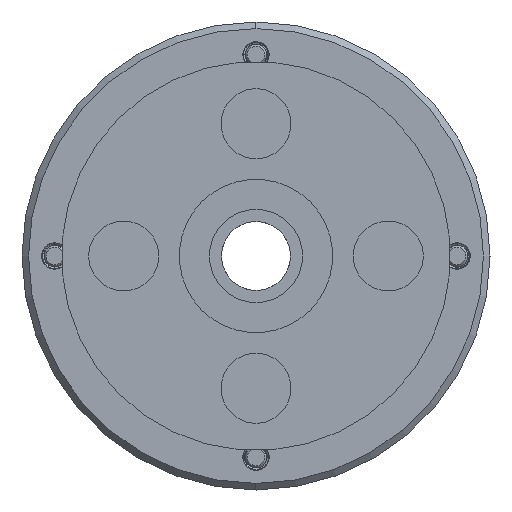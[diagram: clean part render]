
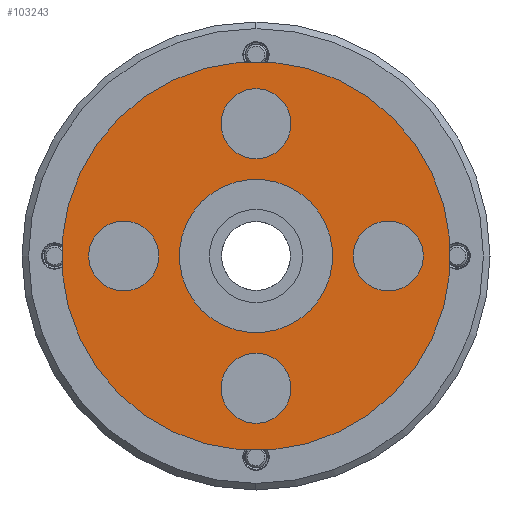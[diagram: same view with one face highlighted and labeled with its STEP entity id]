
A CAD part, front view. The second image highlights one B-rep face of the part: STEP entity #103243.
In plain terms, the highlighted planar face has unit normal (0, -1, 0).
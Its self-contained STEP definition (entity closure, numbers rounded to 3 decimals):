
#1162 = EDGE_CURVE ( 'NONE', #57829, #64272, #52770, .T. ) ;
#1677 = VERTEX_POINT ( 'NONE', #91084 ) ;
#2292 = VERTEX_POINT ( 'NONE', #72057 ) ;
#2475 = DIRECTION ( 'NONE',  ( 0., -1., 0. ) ) ;
#2848 = CIRCLE ( 'NONE', #99562, 17.526 ) ;
#3690 = FACE_BOUND ( 'NONE', #38725, .T. ) ;
#3833 = DIRECTION ( 'NONE',  ( 0., -1., 0. ) ) ;
#4563 = CARTESIAN_POINT ( 'NONE',  ( 25.222, -270.6, 73.841 ) ) ;
#6113 = DIRECTION ( 'NONE',  ( 0.707, 0., -0.707 ) ) ;
#7865 = CIRCLE ( 'NONE', #80913, 8.001 ) ;
#9771 = EDGE_CURVE ( 'NONE', #93512, #59195, #13203, .T. ) ;
#12374 = CARTESIAN_POINT ( 'NONE',  ( 25.222, -270.6, 104.067 ) ) ;
#12592 = CARTESIAN_POINT ( 'NONE',  ( 49.79, -270.6, 79.499 ) ) ;
#12610 = VERTEX_POINT ( 'NONE', #12592 ) ;
#13100 = EDGE_LOOP ( 'NONE', ( #38926, #27271 ) ) ;
#13203 = CIRCLE ( 'NONE', #44356, 8.001 ) ;
#13887 = EDGE_LOOP ( 'NONE', ( #57359, #43986 ) ) ;
#15195 = ORIENTED_EDGE ( 'NONE', *, *, #38668, .F. ) ;
#15482 = DIRECTION ( 'NONE',  ( 0., -1., 0. ) ) ;
#15580 = ORIENTED_EDGE ( 'NONE', *, *, #9771, .F. ) ;
#15630 = DIRECTION ( 'NONE',  ( 0., -1., 0. ) ) ;
#16060 = CARTESIAN_POINT ( 'NONE',  ( 25.222, -270.6, 104.067 ) ) ;
#16500 = AXIS2_PLACEMENT_3D ( 'NONE', #76999, #43321, #26668 ) ;
#17140 = ORIENTED_EDGE ( 'NONE', *, *, #24731, .F. ) ;
#17389 = CARTESIAN_POINT ( 'NONE',  ( -5.004, -270.6, 73.841 ) ) ;
#21909 = VERTEX_POINT ( 'NONE', #24761 ) ;
#23789 = DIRECTION ( 'NONE',  ( 0.707, 0., -0.707 ) ) ;
#24731 = EDGE_CURVE ( 'NONE', #2292, #21909, #54283, .T. ) ;
#24761 = CARTESIAN_POINT ( 'NONE',  ( 12.829, -270.6, 86.234 ) ) ;
#26668 = DIRECTION ( 'NONE',  ( 0.707, 0., -0.707 ) ) ;
#27271 = ORIENTED_EDGE ( 'NONE', *, *, #91590, .T. ) ;
#28256 = CARTESIAN_POINT ( 'NONE',  ( -6.209, -270.6, 105.272 ) ) ;
#29985 = CARTESIAN_POINT ( 'NONE',  ( 30.88, -270.6, 37.958 ) ) ;
#30122 = ORIENTED_EDGE ( 'NONE', *, *, #97494, .F. ) ;
#30275 = DIRECTION ( 'NONE',  ( 0., -1., 0. ) ) ;
#32118 = AXIS2_PLACEMENT_3D ( 'NONE', #4563, #30275, #55474 ) ;
#32899 = DIRECTION ( 'NONE',  ( 0.707, 0., -0.707 ) ) ;
#34058 = CIRCLE ( 'NONE', #77807, 8.001 ) ;
#34332 = EDGE_CURVE ( 'NONE', #1677, #80880, #79644, .T. ) ;
#34604 = EDGE_LOOP ( 'NONE', ( #30122, #61757 ) ) ;
#35494 = CARTESIAN_POINT ( 'NONE',  ( 25.222, -270.6, 73.841 ) ) ;
#36632 = CIRCLE ( 'NONE', #16500, 8.001 ) ;
#37064 = CARTESIAN_POINT ( 'NONE',  ( -5.004, -270.6, 73.841 ) ) ;
#38668 = EDGE_CURVE ( 'NONE', #12610, #58379, #63774, .T. ) ;
#38725 = EDGE_LOOP ( 'NONE', ( #101909, #15195 ) ) ;
#38926 = ORIENTED_EDGE ( 'NONE', *, *, #109003, .T. ) ;
#41443 = DIRECTION ( 'NONE',  ( 0.707, 0., -0.707 ) ) ;
#42118 = AXIS2_PLACEMENT_3D ( 'NONE', #105950, #91074, #64303 ) ;
#42566 = EDGE_CURVE ( 'NONE', #59195, #93512, #7865, .T. ) ;
#43321 = DIRECTION ( 'NONE',  ( 0., -1., 0. ) ) ;
#43986 = ORIENTED_EDGE ( 'NONE', *, *, #34332, .F. ) ;
#44356 = AXIS2_PLACEMENT_3D ( 'NONE', #63673, #2475, #107559 ) ;
#44499 = DIRECTION ( 'NONE',  ( 0.707, 0., -0.707 ) ) ;
#47351 = AXIS2_PLACEMENT_3D ( 'NONE', #37064, #97544, #44499 ) ;
#52770 = CIRCLE ( 'NONE', #47351, 8.001 ) ;
#54283 = CIRCLE ( 'NONE', #105354, 17.526 ) ;
#55474 = DIRECTION ( 'NONE',  ( 0.707, 0., -0.707 ) ) ;
#55764 = EDGE_LOOP ( 'NONE', ( #97056, #15580 ) ) ;
#56555 = CARTESIAN_POINT ( 'NONE',  ( 30.88, -270.6, 98.41 ) ) ;
#57359 = ORIENTED_EDGE ( 'NONE', *, *, #90455, .F. ) ;
#57829 = VERTEX_POINT ( 'NONE', #107911 ) ;
#58379 = VERTEX_POINT ( 'NONE', #82112 ) ;
#58449 = VERTEX_POINT ( 'NONE', #28256 ) ;
#59195 = VERTEX_POINT ( 'NONE', #29985 ) ;
#61757 = ORIENTED_EDGE ( 'NONE', *, *, #1162, .F. ) ;
#62908 = AXIS2_PLACEMENT_3D ( 'NONE', #16060, #15482, #67538 ) ;
#63673 = CARTESIAN_POINT ( 'NONE',  ( 25.222, -270.6, 43.615 ) ) ;
#63774 = CIRCLE ( 'NONE', #111166, 8.001 ) ;
#64272 = VERTEX_POINT ( 'NONE', #99787 ) ;
#64303 = DIRECTION ( 'NONE',  ( 0.707, 0., -0.707 ) ) ;
#67538 = DIRECTION ( 'NONE',  ( 0.707, 0., -0.707 ) ) ;
#68286 = CARTESIAN_POINT ( 'NONE',  ( 25.222, -270.6, 43.615 ) ) ;
#68757 = CIRCLE ( 'NONE', #69010, 44.45 ) ;
#69010 = AXIS2_PLACEMENT_3D ( 'NONE', #111218, #102096, #6113 ) ;
#71418 = EDGE_LOOP ( 'NONE', ( #82265, #17140 ) ) ;
#72057 = CARTESIAN_POINT ( 'NONE',  ( 37.615, -270.6, 61.449 ) ) ;
#72867 = FACE_BOUND ( 'NONE', #55764, .T. ) ;
#76999 = CARTESIAN_POINT ( 'NONE',  ( 55.448, -270.6, 73.841 ) ) ;
#77807 = AXIS2_PLACEMENT_3D ( 'NONE', #17389, #95671, #32899 ) ;
#79454 = EDGE_CURVE ( 'NONE', #21909, #2292, #2848, .T. ) ;
#79644 = CIRCLE ( 'NONE', #96101, 8.001 ) ;
#79981 = CARTESIAN_POINT ( 'NONE',  ( 19.564, -270.6, 49.273 ) ) ;
#80880 = VERTEX_POINT ( 'NONE', #56555 ) ;
#80913 = AXIS2_PLACEMENT_3D ( 'NONE', #68286, #111116, #93934 ) ;
#81393 = PLANE ( 'NONE',  #42118 ) ;
#82112 = CARTESIAN_POINT ( 'NONE',  ( 61.106, -270.6, 68.184 ) ) ;
#82265 = ORIENTED_EDGE ( 'NONE', *, *, #79454, .F. ) ;
#82901 = CIRCLE ( 'NONE', #62908, 8.001 ) ;
#85903 = CARTESIAN_POINT ( 'NONE',  ( 55.448, -270.6, 73.841 ) ) ;
#89612 = CARTESIAN_POINT ( 'NONE',  ( 25.222, -270.6, 73.841 ) ) ;
#89662 = DIRECTION ( 'NONE',  ( 0.707, 0., -0.707 ) ) ;
#89768 = VERTEX_POINT ( 'NONE', #90626 ) ;
#89942 = FACE_OUTER_BOUND ( 'NONE', #13100, .T. ) ;
#90455 = EDGE_CURVE ( 'NONE', #80880, #1677, #82901, .T. ) ;
#90626 = CARTESIAN_POINT ( 'NONE',  ( 56.653, -270.6, 42.41 ) ) ;
#91074 = DIRECTION ( 'NONE',  ( 0., -1., 0. ) ) ;
#91084 = CARTESIAN_POINT ( 'NONE',  ( 19.564, -270.6, 109.725 ) ) ;
#91286 = DIRECTION ( 'NONE',  ( 0., -1., 0. ) ) ;
#91590 = EDGE_CURVE ( 'NONE', #58449, #89768, #101401, .T. ) ;
#93512 = VERTEX_POINT ( 'NONE', #79981 ) ;
#93934 = DIRECTION ( 'NONE',  ( 0.707, 0., -0.707 ) ) ;
#95671 = DIRECTION ( 'NONE',  ( 0., -1., 0. ) ) ;
#96101 = AXIS2_PLACEMENT_3D ( 'NONE', #12374, #3833, #23789 ) ;
#97056 = ORIENTED_EDGE ( 'NONE', *, *, #42566, .F. ) ;
#97179 = EDGE_CURVE ( 'NONE', #58379, #12610, #36632, .T. ) ;
#97494 = EDGE_CURVE ( 'NONE', #64272, #57829, #34058, .T. ) ;
#97544 = DIRECTION ( 'NONE',  ( 0., -1., 0. ) ) ;
#97960 = FACE_BOUND ( 'NONE', #13887, .T. ) ;
#99562 = AXIS2_PLACEMENT_3D ( 'NONE', #35494, #105689, #89662 ) ;
#99648 = FACE_BOUND ( 'NONE', #34604, .T. ) ;
#99787 = CARTESIAN_POINT ( 'NONE',  ( 0.654, -270.6, 68.184 ) ) ;
#101401 = CIRCLE ( 'NONE', #32118, 44.45 ) ;
#101909 = ORIENTED_EDGE ( 'NONE', *, *, #97179, .F. ) ;
#102096 = DIRECTION ( 'NONE',  ( 0., -1., 0. ) ) ;
#103243 = ADVANCED_FACE ( 'NONE', ( #97960, #99648, #72867, #3690, #107644, #89942 ), #81393, .T. ) ;
#105354 = AXIS2_PLACEMENT_3D ( 'NONE', #89612, #91286, #106720 ) ;
#105689 = DIRECTION ( 'NONE',  ( 0., -1., 0. ) ) ;
#105950 = CARTESIAN_POINT ( 'NONE',  ( 25.222, -270.6, 73.841 ) ) ;
#106720 = DIRECTION ( 'NONE',  ( 0.707, 0., -0.707 ) ) ;
#107559 = DIRECTION ( 'NONE',  ( 0.707, 0., -0.707 ) ) ;
#107644 = FACE_BOUND ( 'NONE', #71418, .T. ) ;
#107911 = CARTESIAN_POINT ( 'NONE',  ( -10.662, -270.6, 79.499 ) ) ;
#109003 = EDGE_CURVE ( 'NONE', #89768, #58449, #68757, .T. ) ;
#111116 = DIRECTION ( 'NONE',  ( 0., -1., 0. ) ) ;
#111166 = AXIS2_PLACEMENT_3D ( 'NONE', #85903, #15630, #41443 ) ;
#111218 = CARTESIAN_POINT ( 'NONE',  ( 25.222, -270.6, 73.841 ) ) ;
